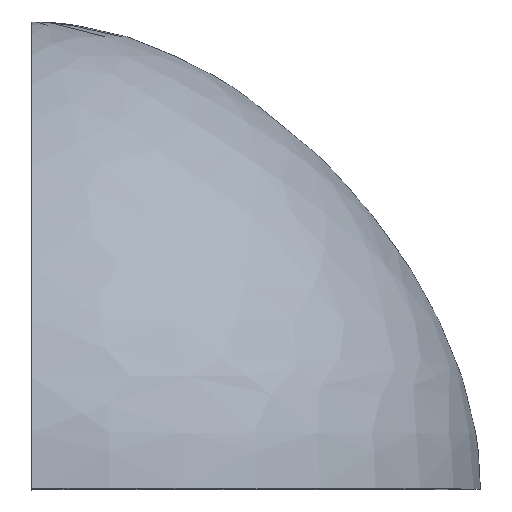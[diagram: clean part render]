
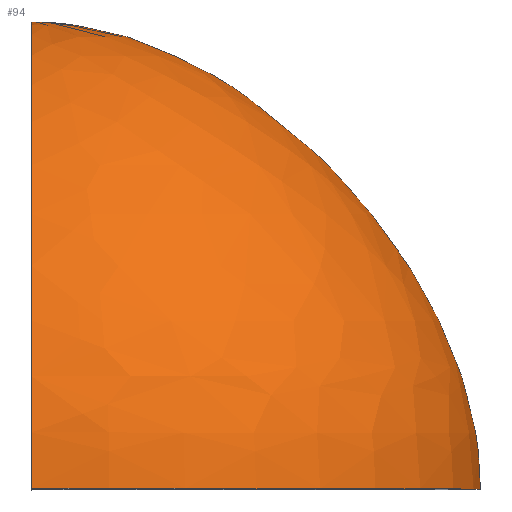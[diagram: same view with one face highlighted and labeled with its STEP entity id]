
A CAD part, top view. The second image highlights one B-rep face of the part: STEP entity #94.
In plain terms, the highlighted face is a revolution surface.
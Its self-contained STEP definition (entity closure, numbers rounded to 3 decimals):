
#52=CARTESIAN_POINT('Control Point',(0.,0.,98.)) ;
#53=CARTESIAN_POINT('Control Point',(0.,28.29,98.)) ;
#54=CARTESIAN_POINT('Control Point',(0.,57.326,84.109)) ;
#55=CARTESIAN_POINT('Control Point',(0.,87.109,56.326)) ;
#56=CARTESIAN_POINT('Control Point',(0.,102.,28.29)) ;
#57=CARTESIAN_POINT('Control Point',(0.,102.,0.)) ;
#58=CARTESIAN_POINT('Axis1P Location',(0.,0.,0.)) ;
#63=CARTESIAN_POINT('Control Point',(0.,0.,-98.)) ;
#64=CARTESIAN_POINT('Control Point',(0.,28.29,-98.)) ;
#65=CARTESIAN_POINT('Control Point',(0.,57.326,-84.109)) ;
#66=CARTESIAN_POINT('Control Point',(0.,87.109,-56.326)) ;
#67=CARTESIAN_POINT('Control Point',(0.,102.,-28.29)) ;
#68=CARTESIAN_POINT('Control Point',(0.,102.,0.)) ;
#69=CARTESIAN_POINT('Vertex',(0.,0.,-98.)) ;
#71=CARTESIAN_POINT('Vertex',(0.,102.,0.)) ;
#75=CARTESIAN_POINT('Control Point',(0.,0.,98.)) ;
#76=CARTESIAN_POINT('Control Point',(0.,28.29,98.)) ;
#77=CARTESIAN_POINT('Control Point',(0.,57.326,84.109)) ;
#78=CARTESIAN_POINT('Control Point',(0.,87.109,56.326)) ;
#79=CARTESIAN_POINT('Control Point',(0.,102.,28.29)) ;
#80=CARTESIAN_POINT('Control Point',(0.,102.,0.)) ;
#81=CARTESIAN_POINT('Vertex',(0.,0.,98.)) ;
#84=CARTESIAN_POINT('Axis2P3D Location',(0.,0.,0.)) ;
#59=DIRECTION('Axis1P Direction',(0.,1.,0.)) ;
#85=DIRECTION('Axis2P3D Direction',(0.,1.,0.)) ;
#86=AXIS2_PLACEMENT_3D('Circle Axis2P3D',#84,#85,$) ;
#90=ORIENTED_EDGE('',*,*,#73,.T.) ;
#91=ORIENTED_EDGE('',*,*,#83,.F.) ;
#92=ORIENTED_EDGE('',*,*,#88,.T.) ;
#94=ADVANCED_FACE('PartBody',(#93),#61,.T.) ;
#60=AXIS1_PLACEMENT('Revolution Surface Axis1P',#58,#59) ;
#51=B_SPLINE_CURVE_WITH_KNOTS('',5,(#52,#53,#54,#55,#56,#57),.UNSPECIFIED.,.F.,.U.,(6,6),(0.,141.45),.UNSPECIFIED.) ;
#62=B_SPLINE_CURVE_WITH_KNOTS('',5,(#63,#64,#65,#66,#67,#68),.UNSPECIFIED.,.F.,.U.,(6,6),(0.,141.45),.UNSPECIFIED.) ;
#74=B_SPLINE_CURVE_WITH_KNOTS('',5,(#75,#76,#77,#78,#79,#80),.UNSPECIFIED.,.F.,.U.,(6,6),(0.,141.45),.UNSPECIFIED.) ;
#87=CIRCLE('generated circle',#86,98.) ;
#73=EDGE_CURVE('',#70,#72,#62,.T.) ;
#83=EDGE_CURVE('',#82,#72,#74,.T.) ;
#88=EDGE_CURVE('',#82,#70,#87,.T.) ;
#89=EDGE_LOOP('',(#90,#91,#92)) ;
#93=FACE_OUTER_BOUND('',#89,.T.) ;
#61=SURFACE_OF_REVOLUTION('Surface of Revolution',#51,#60) ;
#70=VERTEX_POINT('',#69) ;
#72=VERTEX_POINT('',#71) ;
#82=VERTEX_POINT('',#81) ;
